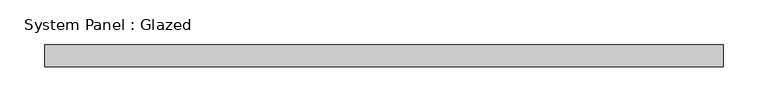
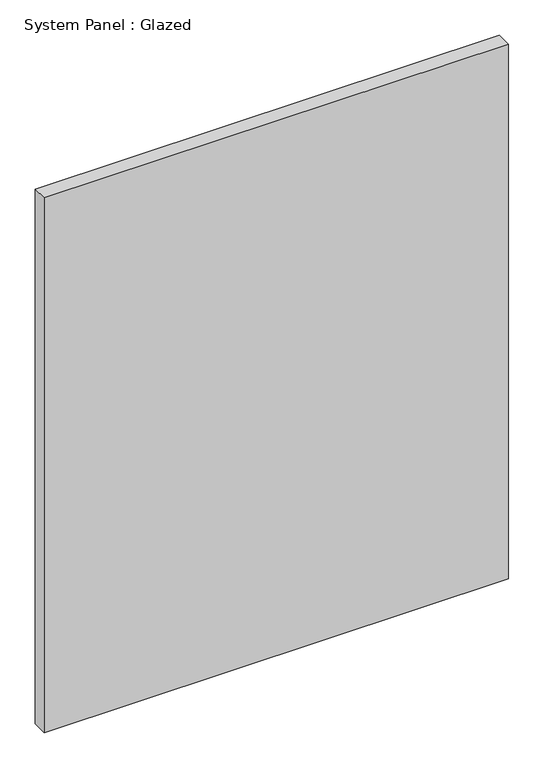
"""IFC4 building model written with IfcOpenShell, lengths in millimetres: plate geometry, System Panel : Glazed."""

from ifc_helpers import new_model, si_unit, origin, origin_with_axes, place, context, project, spatial, polyline, outline, extrude, source, transform, mapped, element, save


def system_panel_glazed_c8547359(model_context):
    return source(origin(), model_context, "Body", "SweptSolid", [
        extrude(outline(polyline([(380.0892471, 24.5), (-380.0892471, 24.5), (-380.0892471, 49.5), (380.0892471, 49.5), (380.0892471, 24.5)])), origin_with_axes(), (0.0, 0.0, 1.0), 925.0),
    ])


if __name__ == "__main__":
    model = new_model("IFC4")
    model_context = context("Model", 3, world=origin())
    ifc_project = project(units=[si_unit("LENGTHUNIT", "METRE", prefix="MILLI")], contexts=[model_context])
    site = spatial("IfcSite", under=ifc_project)
    building = spatial("IfcBuilding", under=site)
    placement = place(None, origin())
    system_panel_glazed_shape = system_panel_glazed_c8547359(model_context)
    element("IfcPlate", 1, ObjectType="System Panel : Glazed", at=placement, inside=building, context=model_context, shape_type="MappedRepresentation", body=[
        mapped(system_panel_glazed_shape, transform((0.0, 0.0, 0.0), x_axis=(1.0, 0.0, 0.0), y_axis=(0.0, 1.0, 0.0), z_axis=(0.0, 0.0, 1.0))),
    ])
    save(model, "model.ifc")
